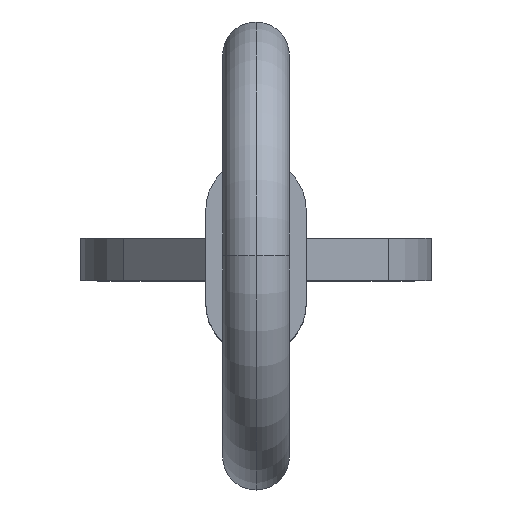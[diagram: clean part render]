
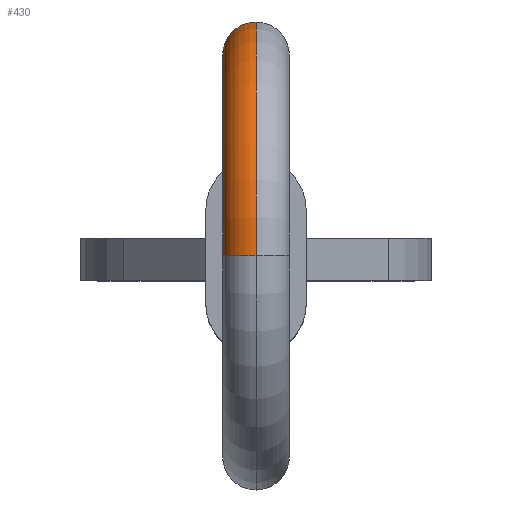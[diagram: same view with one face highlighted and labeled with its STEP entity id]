
A CAD part, top view. The second image highlights one B-rep face of the part: STEP entity #430.
In plain terms, the highlighted toroidal (fillet/blend) face has major radius 4.8 mm and minor radius 0.795 mm.
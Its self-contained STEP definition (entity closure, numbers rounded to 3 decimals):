
#1 = CARTESIAN_POINT ( 'NONE',  ( 0., 1.852, 287.13 ) ) ;
#78 = VERTEX_POINT ( 'NONE', #1 ) ;
#93 = EDGE_CURVE ( 'NONE', #661, #649, #125, .T. ) ;
#98 = CIRCLE ( 'NONE', #884, 4.005 ) ;
#120 = EDGE_LOOP ( 'NONE', ( #799, #573, #492, #640 ) ) ;
#125 = CIRCLE ( 'NONE', #668, 0.795 ) ;
#151 = DIRECTION ( 'NONE',  ( 0., 0., 1. ) ) ;
#169 = DIRECTION ( 'NONE',  ( 0., 0.667, 0.745 ) ) ;
#234 = TOROIDAL_SURFACE ( 'NONE', #439, 4.8, 0.795 ) ;
#296 = VERTEX_POINT ( 'NONE', #559 ) ;
#306 = DIRECTION ( 'NONE',  ( 0., 0., -1. ) ) ;
#430 = ADVANCED_FACE ( 'NONE', ( #578 ), #234, .T. ) ;
#439 = AXIS2_PLACEMENT_3D ( 'NONE', #794, #561, #945 ) ;
#450 = CARTESIAN_POINT ( 'NONE',  ( 0., -1.133, 289.8 ) ) ;
#492 = ORIENTED_EDGE ( 'NONE', *, *, #754, .T. ) ;
#515 = CARTESIAN_POINT ( 'NONE',  ( 0., -1.133, 289.8 ) ) ;
#537 = AXIS2_PLACEMENT_3D ( 'NONE', #450, #745, #590 ) ;
#559 = CARTESIAN_POINT ( 'NONE',  ( 0., 3.037, 286.07 ) ) ;
#561 = DIRECTION ( 'NONE',  ( -1., 0., 0. ) ) ;
#573 = ORIENTED_EDGE ( 'NONE', *, *, #621, .T. ) ;
#578 = FACE_OUTER_BOUND ( 'NONE', #120, .T. ) ;
#584 = CIRCLE ( 'NONE', #537, 5.595 ) ;
#590 = DIRECTION ( 'NONE',  ( 0., 0., 1. ) ) ;
#599 = EDGE_CURVE ( 'NONE', #649, #78, #98, .T. ) ;
#621 = EDGE_CURVE ( 'NONE', #661, #296, #584, .T. ) ;
#640 = ORIENTED_EDGE ( 'NONE', *, *, #599, .F. ) ;
#649 = VERTEX_POINT ( 'NONE', #890 ) ;
#661 = VERTEX_POINT ( 'NONE', #823 ) ;
#662 = DIRECTION ( 'NONE',  ( 0., -1., 0. ) ) ;
#668 = AXIS2_PLACEMENT_3D ( 'NONE', #740, #662, #306 ) ;
#672 = AXIS2_PLACEMENT_3D ( 'NONE', #678, #169, #889 ) ;
#678 = CARTESIAN_POINT ( 'NONE',  ( 0., 2.445, 286.6 ) ) ;
#740 = CARTESIAN_POINT ( 'NONE',  ( 0., -1.133, 294.6 ) ) ;
#745 = DIRECTION ( 'NONE',  ( -1., 0., 0. ) ) ;
#750 = DIRECTION ( 'NONE',  ( -1., 0., 0. ) ) ;
#754 = EDGE_CURVE ( 'NONE', #296, #78, #900, .T. ) ;
#794 = CARTESIAN_POINT ( 'NONE',  ( 0., -1.133, 289.8 ) ) ;
#799 = ORIENTED_EDGE ( 'NONE', *, *, #93, .F. ) ;
#823 = CARTESIAN_POINT ( 'NONE',  ( 0., -1.133, 295.395 ) ) ;
#884 = AXIS2_PLACEMENT_3D ( 'NONE', #515, #750, #151 ) ;
#889 = DIRECTION ( 'NONE',  ( 1., 0., 0. ) ) ;
#890 = CARTESIAN_POINT ( 'NONE',  ( 0., -1.133, 293.805 ) ) ;
#900 = CIRCLE ( 'NONE', #672, 0.795 ) ;
#945 = DIRECTION ( 'NONE',  ( 0., 0., 1. ) ) ;
